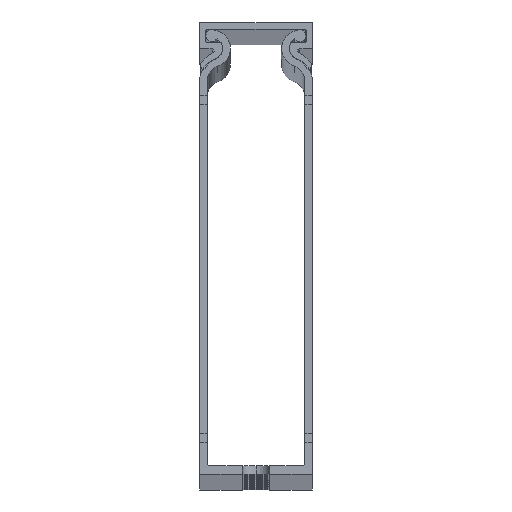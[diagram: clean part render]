
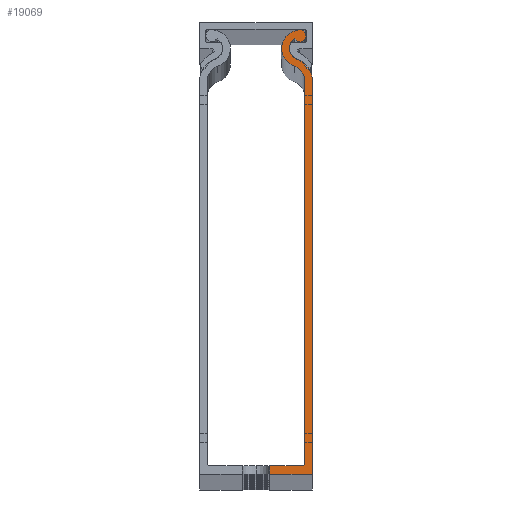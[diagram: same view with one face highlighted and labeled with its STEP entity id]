
A CAD part, top view. The second image highlights one B-rep face of the part: STEP entity #19069.
In plain terms, the highlighted planar face has unit normal (0, 0, 1).
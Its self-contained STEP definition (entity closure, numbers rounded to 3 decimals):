
#1007 = PLANE ( 'NONE',  #36297 ) ;
#1054 = VERTEX_POINT ( 'NONE', #18211 ) ;
#1724 = CIRCLE ( 'NONE', #40108, 5.1 ) ;
#2115 = DIRECTION ( 'NONE',  ( 1., 0., 0. ) ) ;
#2325 = DIRECTION ( 'NONE',  ( 0., 0., -1. ) ) ;
#2567 = EDGE_CURVE ( 'NONE', #23754, #18461, #60521, .T. ) ;
#3462 = DIRECTION ( 'NONE',  ( 0., -1., 0. ) ) ;
#3900 = DIRECTION ( 'NONE',  ( 0., 0., 1. ) ) ;
#4079 = EDGE_CURVE ( 'NONE', #11843, #35573, #13402, .T. ) ;
#4447 = FACE_OUTER_BOUND ( 'NONE', #22999, .T. ) ;
#5022 = ORIENTED_EDGE ( 'NONE', *, *, #43564, .T. ) ;
#7106 = CARTESIAN_POINT ( 'NONE',  ( 2578.707, 1199.456, 2000. ) ) ;
#7276 = CARTESIAN_POINT ( 'NONE',  ( 2577.404, 1289.077, 2000. ) ) ;
#8346 = VERTEX_POINT ( 'NONE', #37645 ) ;
#8792 = CARTESIAN_POINT ( 'NONE',  ( 2580.907, 1197.056, 2000. ) ) ;
#8869 = CARTESIAN_POINT ( 'NONE',  ( 2578.155, 1291.356, 2000. ) ) ;
#9065 = ORIENTED_EDGE ( 'NONE', *, *, #11751, .F. ) ;
#9511 = ORIENTED_EDGE ( 'NONE', *, *, #45404, .T. ) ;
#11751 = EDGE_CURVE ( 'NONE', #40774, #32048, #33076, .T. ) ;
#11841 = CIRCLE ( 'NONE', #22485, 2.4 ) ;
#11843 = VERTEX_POINT ( 'NONE', #63742 ) ;
#13402 = CIRCLE ( 'NONE', #54051, 3.4 ) ;
#14773 = CARTESIAN_POINT ( 'NONE',  ( 2571.407, 1197.056, 2000. ) ) ;
#16484 = LINE ( 'NONE', #8792, #28876 ) ;
#16776 = CIRCLE ( 'NONE', #21458, 4.1 ) ;
#16896 = CARTESIAN_POINT ( 'NONE',  ( 2568.407, 1198.956, 2000. ) ) ;
#17356 = CARTESIAN_POINT ( 'NONE',  ( 2578.157, 1294.213, 2000. ) ) ;
#18121 = DIRECTION ( 'NONE',  ( 0., 1., 0. ) ) ;
#18211 = CARTESIAN_POINT ( 'NONE',  ( 2577.529, 1295.408, 2000. ) ) ;
#18461 = VERTEX_POINT ( 'NONE', #36115 ) ;
#18648 = DIRECTION ( 'NONE',  ( 1., 0., 0. ) ) ;
#19069 = ADVANCED_FACE ( 'NONE', ( #4447 ), #1007, .T. ) ;
#19117 = ORIENTED_EDGE ( 'NONE', *, *, #2567, .T. ) ;
#19279 = ORIENTED_EDGE ( 'NONE', *, *, #28436, .T. ) ;
#19659 = VERTEX_POINT ( 'NONE', #61234 ) ;
#20519 = VERTEX_POINT ( 'NONE', #36886 ) ;
#20540 = DIRECTION ( 'NONE',  ( 1., 0., 0. ) ) ;
#20575 = CARTESIAN_POINT ( 'NONE',  ( 2580.907, 1284.196, 2000. ) ) ;
#21070 = DIRECTION ( 'NONE',  ( 0., 0., -1. ) ) ;
#21458 = AXIS2_PLACEMENT_3D ( 'NONE', #35547, #60133, #60795 ) ;
#21517 = EDGE_CURVE ( 'NONE', #30168, #23754, #1724, .T. ) ;
#22444 = AXIS2_PLACEMENT_3D ( 'NONE', #8869, #48465, #18648 ) ;
#22485 = AXIS2_PLACEMENT_3D ( 'NONE', #30674, #30274, #20540 ) ;
#22999 = EDGE_LOOP ( 'NONE', ( #9065, #49873, #28996, #50863, #19117, #53305, #23381, #50637, #61661, #59271, #5022, #19279, #9511 ) ) ;
#23381 = ORIENTED_EDGE ( 'NONE', *, *, #32089, .T. ) ;
#23754 = VERTEX_POINT ( 'NONE', #7276 ) ;
#23981 = VECTOR ( 'NONE', #56101, 1000. ) ;
#24819 = CARTESIAN_POINT ( 'NONE',  ( 2580.907, 1197.056, 2000. ) ) ;
#26235 = DIRECTION ( 'NONE',  ( 0., 1., 0. ) ) ;
#28309 = LINE ( 'NONE', #29331, #34473 ) ;
#28436 = EDGE_CURVE ( 'NONE', #8346, #55245, #58646, .T. ) ;
#28876 = VECTOR ( 'NONE', #18121, 1000. ) ;
#28996 = ORIENTED_EDGE ( 'NONE', *, *, #40069, .T. ) ;
#29331 = CARTESIAN_POINT ( 'NONE',  ( 2568.407, 1197.056, 2000. ) ) ;
#30168 = VERTEX_POINT ( 'NONE', #20575 ) ;
#30274 = DIRECTION ( 'NONE',  ( 0., 0., -1. ) ) ;
#30674 = CARTESIAN_POINT ( 'NONE',  ( 2578.155, 1291.356, 2000. ) ) ;
#31080 = DIRECTION ( 'NONE',  ( 1., 0., 0. ) ) ;
#32048 = VERTEX_POINT ( 'NONE', #45468 ) ;
#32089 = EDGE_CURVE ( 'NONE', #20519, #1054, #50843, .T. ) ;
#33076 = LINE ( 'NONE', #60979, #53257 ) ;
#34473 = VECTOR ( 'NONE', #34698, 1000. ) ;
#34698 = DIRECTION ( 'NONE',  ( 1., 0., 0. ) ) ;
#35547 = CARTESIAN_POINT ( 'NONE',  ( 2578.155, 1291.356, 2000. ) ) ;
#35573 = VERTEX_POINT ( 'NONE', #56684 ) ;
#35731 = CARTESIAN_POINT ( 'NONE',  ( 2575.807, 1284.233, 2000. ) ) ;
#36115 = CARTESIAN_POINT ( 'NONE',  ( 2575.755, 1291.356, 2000. ) ) ;
#36297 = AXIS2_PLACEMENT_3D ( 'NONE', #40609, #50589, #36469 ) ;
#36469 = DIRECTION ( 'NONE',  ( 1., 0., 0. ) ) ;
#36569 = DIRECTION ( 'NONE',  ( 1., 0., 0. ) ) ;
#36886 = CARTESIAN_POINT ( 'NONE',  ( 2577.027, 1293.474, 2000. ) ) ;
#37645 = CARTESIAN_POINT ( 'NONE',  ( 2579.207, 1199.456, 2000. ) ) ;
#37973 = EDGE_CURVE ( 'NONE', #40774, #50241, #28309, .T. ) ;
#38153 = EDGE_CURVE ( 'NONE', #1054, #19659, #16776, .T. ) ;
#38411 = AXIS2_PLACEMENT_3D ( 'NONE', #60857, #45127, #31080 ) ;
#39238 = CIRCLE ( 'NONE', #38411, 4.1 ) ;
#40069 = EDGE_CURVE ( 'NONE', #50241, #30168, #16484, .T. ) ;
#40108 = AXIS2_PLACEMENT_3D ( 'NONE', #58553, #3900, #54178 ) ;
#40183 = CARTESIAN_POINT ( 'NONE',  ( 2578.707, 1198.956, 2000. ) ) ;
#40609 = CARTESIAN_POINT ( 'NONE',  ( 2561.007, 1284.233, 2000. ) ) ;
#40774 = VERTEX_POINT ( 'NONE', #14773 ) ;
#41907 = LINE ( 'NONE', #47886, #53595 ) ;
#42659 = EDGE_CURVE ( 'NONE', #18461, #20519, #11841, .T. ) ;
#43564 = EDGE_CURVE ( 'NONE', #35573, #8346, #41907, .T. ) ;
#44826 = DIRECTION ( 'NONE',  ( 1., 0., 0. ) ) ;
#45127 = DIRECTION ( 'NONE',  ( 0., 0., 1. ) ) ;
#45404 = EDGE_CURVE ( 'NONE', #55245, #32048, #48736, .T. ) ;
#45468 = CARTESIAN_POINT ( 'NONE',  ( 2571.407, 1198.956, 2000. ) ) ;
#45567 = AXIS2_PLACEMENT_3D ( 'NONE', #17356, #51979, #36569 ) ;
#47479 = AXIS2_PLACEMENT_3D ( 'NONE', #7106, #2325, #2115 ) ;
#47886 = CARTESIAN_POINT ( 'NONE',  ( 2579.207, 1284.203, 2000. ) ) ;
#48465 = DIRECTION ( 'NONE',  ( 0., 0., -1. ) ) ;
#48736 = LINE ( 'NONE', #16896, #23981 ) ;
#49873 = ORIENTED_EDGE ( 'NONE', *, *, #37973, .T. ) ;
#50241 = VERTEX_POINT ( 'NONE', #24819 ) ;
#50589 = DIRECTION ( 'NONE',  ( 0., 0., 1. ) ) ;
#50637 = ORIENTED_EDGE ( 'NONE', *, *, #38153, .T. ) ;
#50843 = CIRCLE ( 'NONE', #45567, 1.35 ) ;
#50863 = ORIENTED_EDGE ( 'NONE', *, *, #21517, .T. ) ;
#51979 = DIRECTION ( 'NONE',  ( 0., 0., 1. ) ) ;
#53257 = VECTOR ( 'NONE', #26235, 1000. ) ;
#53305 = ORIENTED_EDGE ( 'NONE', *, *, #42659, .T. ) ;
#53595 = VECTOR ( 'NONE', #3462, 1000. ) ;
#54051 = AXIS2_PLACEMENT_3D ( 'NONE', #35731, #21070, #44826 ) ;
#54178 = DIRECTION ( 'NONE',  ( 1., 0., 0. ) ) ;
#55245 = VERTEX_POINT ( 'NONE', #40183 ) ;
#56101 = DIRECTION ( 'NONE',  ( -1., 0., 0. ) ) ;
#56684 = CARTESIAN_POINT ( 'NONE',  ( 2579.207, 1284.203, 2000. ) ) ;
#57793 = EDGE_CURVE ( 'NONE', #19659, #11843, #39238, .T. ) ;
#58553 = CARTESIAN_POINT ( 'NONE',  ( 2575.807, 1284.233, 2000. ) ) ;
#58646 = CIRCLE ( 'NONE', #47479, 0.5 ) ;
#59271 = ORIENTED_EDGE ( 'NONE', *, *, #4079, .T. ) ;
#60133 = DIRECTION ( 'NONE',  ( 0., 0., 1. ) ) ;
#60521 = CIRCLE ( 'NONE', #22444, 2.4 ) ;
#60795 = DIRECTION ( 'NONE',  ( 1., 0., 0. ) ) ;
#60857 = CARTESIAN_POINT ( 'NONE',  ( 2578.155, 1291.356, 2000. ) ) ;
#60979 = CARTESIAN_POINT ( 'NONE',  ( 2571.407, 1284.233, 2000. ) ) ;
#61234 = CARTESIAN_POINT ( 'NONE',  ( 2574.055, 1291.356, 2000. ) ) ;
#61661 = ORIENTED_EDGE ( 'NONE', *, *, #57793, .T. ) ;
#63742 = CARTESIAN_POINT ( 'NONE',  ( 2576.872, 1287.462, 2000. ) ) ;
